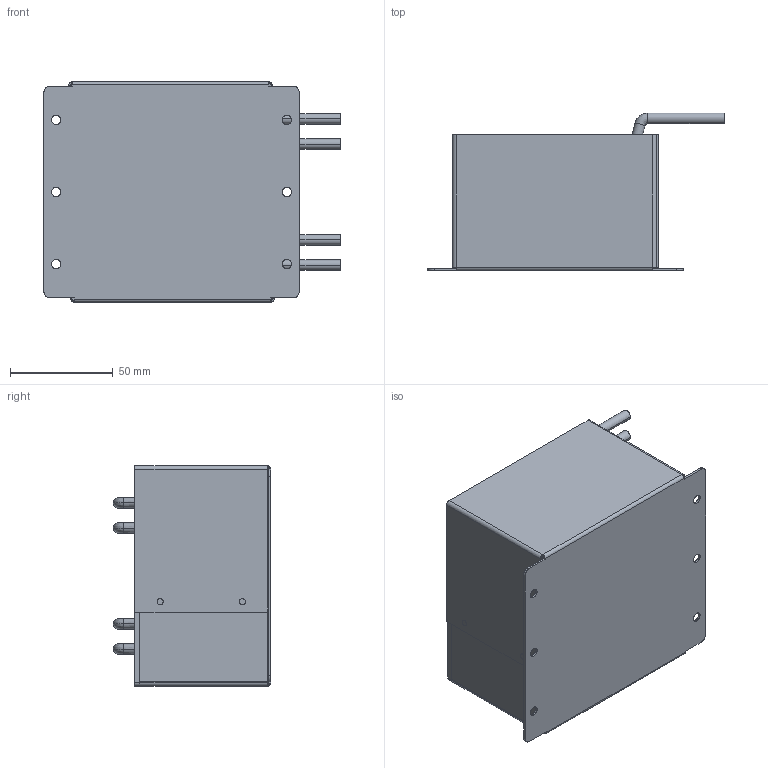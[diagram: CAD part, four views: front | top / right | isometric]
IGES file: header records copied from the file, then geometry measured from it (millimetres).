
Start section: SolidWorks IGES file using analytic representation for surfaces
Global section: file name: 19H\\10.106.230.1\r&d file\05_COMP\02_Mechanical\10_Others\PV_RT 81\网络用3D模型\灌封模型\S-3KW-P-ACL\S-3KW_P_ACL 总装.IGS; native system: SolidWorks 2009; preprocessor: SolidWorks 2009; author: 钱雅婧, ,; organization: 11; date: 120507.163657; units: millimetre
Bounding box: 143.9 x 76.5 x 107 mm (x, y, z)
Surface area: 131426.8 mm2 (no closed solid volume)
Topology: 0 solids, 0 shells, 128 faces, 976 edges, 976 vertices
Faces by surface type: bspline 72, revolution 56
